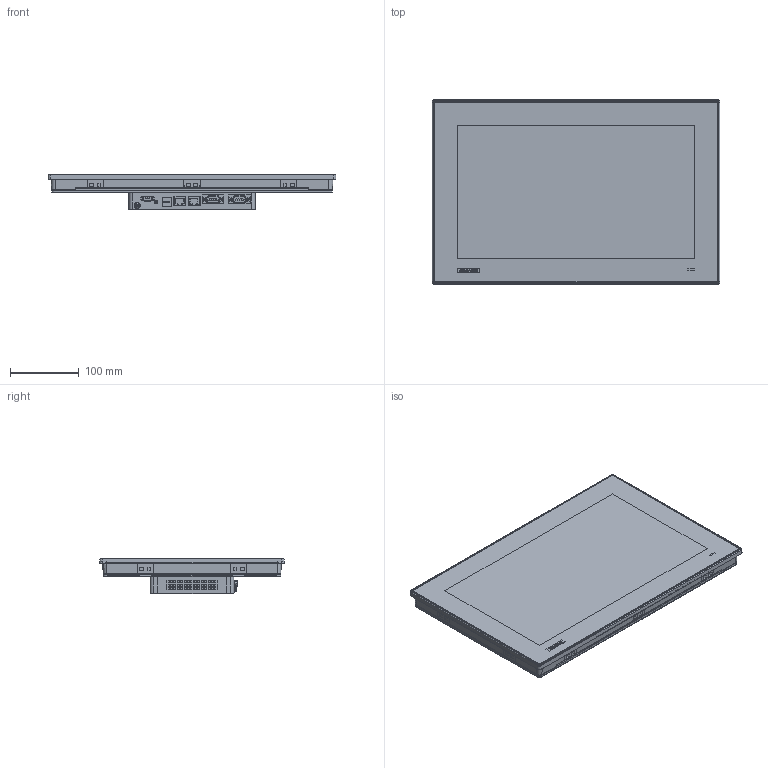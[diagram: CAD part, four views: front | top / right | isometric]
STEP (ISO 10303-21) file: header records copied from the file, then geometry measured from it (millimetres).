
FILE_DESCRIPTION (( 'STEP AP214' ), '1' );
FILE_NAME ('0-TPC-115WP-wo fill data.STEP', '2022-04-28T09:59:17', ( '' ), ( '' ), 'SwSTEP 2.0', 'SolidWorks 2020', '' );
FILE_SCHEMA (( 'AUTOMOTIVE_DESIGN' ));
Length unit declared in the file: millimetre
Products named in the file (23): Cover-MB for TPC-110WP; Printing-IO for TPC-100; 1-Module-DM for TPC-115WP; Cover-Rear for TPC-115WP; 1654011262-01_默_; Position mark-Cover-MB for TPC-100; Printing-GND; TS-155; 1652004356; 19350304A0_默_; 9-PCBA-MB for TPC-100; Front bezel silver for FPM-D15W-BE; 19300306A0_默_; 193A244002 F=#4-40x4L M=#4-40x6L B=5 H=5 NK; 1654009513; Cover-MB-CAN for TPC-110WP; SCREWS-Cover-Rear^1-Module-DM for TPC-115WP; 1652004718; BKT-TS Board for TPC-115WP; 0-TPC-115WP-wo fill data; 1652602005_默_; 1935140630_默_; 1930001361-Screw M3x4L SS D=5 H=1.2 (2+) ST Ni NK_M3L4
Assembly tree (47 placements, depth 4):
  0-TPC-115WP-wo fill data
    1-Module-DM for TPC-115WP
      Front bezel silver for FPM-D15W-BE
      Cover-Rear for TPC-115WP
      TS-155
      BKT-TS Board for TPC-115WP
      SCREWS-Cover-Rear^1-Module-DM for TPC-115WP
        1930001361-Screw M3x4L SS D=5 H=1.2 (2+) ST Ni NK_M3L4  x8
    9-PCBA-MB for TPC-100
      1652602005_默_
      1654009513
      1652004356
      1652004718
      1654011262-01_默_  x2
      193A244002 F=#4-40x4L M=#4-40x6L B=5 H=5 NK  x4
      19300306A0_默_  x11
    Cover-MB for TPC-110WP
      Cover-MB-CAN for TPC-110WP
      1930001361-Screw M3x4L SS D=5 H=1.2 (2+) ST Ni NK_M3L4  x4
      1935140630_默_
      19350304A0_默_
      Position mark-Cover-MB for TPC-100
      Printing-IO for TPC-100
      Printing-GND
Bounding box: 419.7 x 269 x 52.47 mm (x, y, z)
Volume: 3633126.6 mm3; surface area: 858347.8 mm2
Topology: 77 solids, 77 shells, 4022 faces, 9985 edges, 6444 vertices
Faces by surface type: plane 3061, cylinder 665, bspline 136, cone 91, torus 69
Full cylindrical faces by diameter (mm): 1 x18, 1.3 x2, 1.8 x2, 2.05 x2, 2.261 x8, 2.459 x3, 2.82 x4, 3 x26, 3.5 x8, 4 x3, 4.5 x4, 5.3 x1, 5.4 x13, 7 x1, 8.8 x1
Entity records: 121977 total; most frequent: CARTESIAN_POINT 26881, ORIENTED_EDGE 16694, DIRECTION 14798, EDGE_CURVE 8347, VECTOR 6812, LINE 6812, VERTEX_POINT 5479, AXIS2_PLACEMENT_3D 3993
